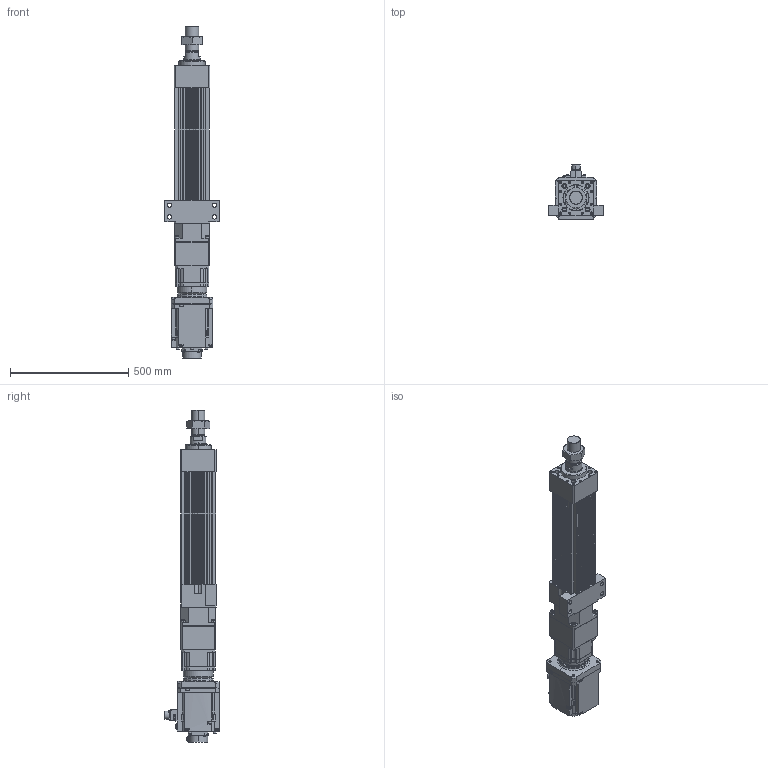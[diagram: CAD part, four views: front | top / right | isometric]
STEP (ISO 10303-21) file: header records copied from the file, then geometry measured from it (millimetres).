
FILE_DESCRIPTION (( 'STEP AP203' ), '1' );
FILE_NAME ('HES150NS(HS)-S200-W050G00-M-FFC.STEP', '2026-06-10T06:41:36', ( 'tms' ), ( '' ), 'SwSTEP 2.0', 'SolidWorks 2013', '' );
FILE_SCHEMA (( 'CONFIG_CONTROL_DESIGN' ));
Length unit declared in the file: millimetre
Products named in the file (9): HES150-M-ROD-200; M56X2.0P; HES150-S-G142; HES150NS(HS)-S200-W050G00-M-FFC; AB1421; HG-SR502B; AB1423; AB1422; HES150-FFC-200
Assembly tree (8 placements, depth 2):
  HES150NS(HS)-S200-W050G00-M-FFC
    HES150-FFC-200
    HES150-M-ROD-200
    M56X2.0P
    HES150-S-G142
    AB1421
    AB1422
    AB1423
    HG-SR502B
Bounding box: 230 x 228.85 x 1403 mm (x, y, z)
Volume: 16536791.5 mm3; surface area: 1660544.8 mm2
Topology: 5 solids, 19 shells, 1588 faces, 4128 edges, 2674 vertices
Faces by surface type: cylinder 726, plane 616, cone 164, bspline 76, torus 6
Entity records: 57568 total; most frequent: CARTESIAN_POINT 17176, DIRECTION 8476, ORIENTED_EDGE 8134, EDGE_CURVE 4089, AXIS2_PLACEMENT_3D 3199, VERTEX_POINT 2674, LINE 2078, VECTOR 2078
